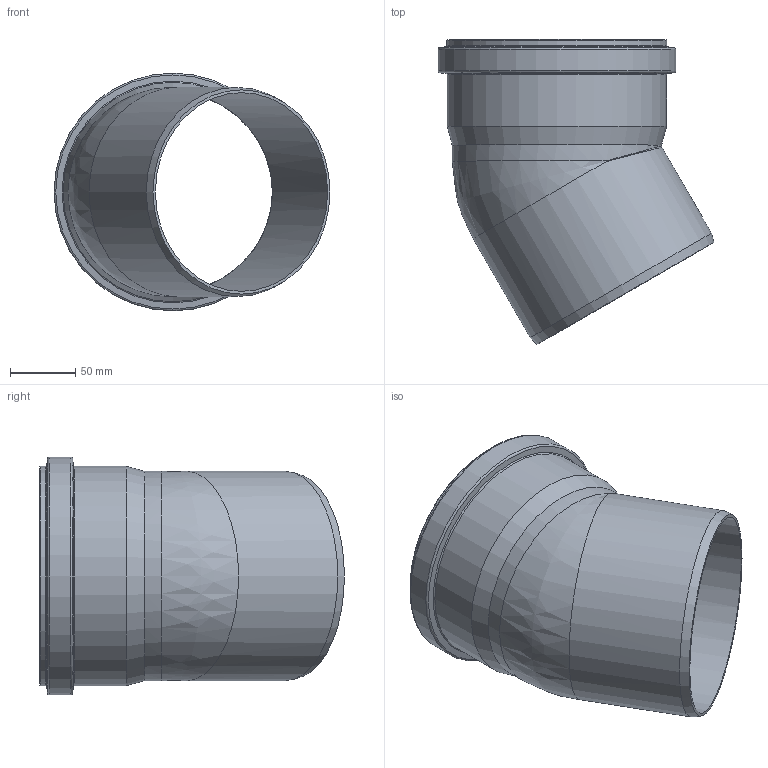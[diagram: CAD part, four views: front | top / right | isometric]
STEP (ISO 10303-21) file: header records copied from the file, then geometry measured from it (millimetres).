
FILE_DESCRIPTION(/* description */ (''),/* implementation_level */ '2;1');
FILE_NAME(/* name */ '222210z.stp',/* time_stamp */ '2026-03-16T09:12:33+01:00',/* author */ ('corinna'),/* organization */ (''),/* preprocessor_version */ 'ST-DEVELOPER v20',/* originating_system */ 'Autodesk Inventor 2024',/* authorisation */ '');
FILE_SCHEMA (('AUTOMOTIVE_DESIGN { 1 0 10303 214 3 1 1 }'));
Length unit declared in the file: millimetre
Products named in the file (1): 222210z
Bounding box: 211.24 x 233.34 x 182 mm (x, y, z)
Volume: 422712.4 mm3; surface area: 224247.4 mm2
Topology: 1 solids, 1 shells, 34 faces, 89 edges, 56 vertices
Faces by surface type: cylinder 11, torus 10, cone 7, bspline 3, plane 3
Full cylindrical faces by diameter (mm): 152.2 x2, 160.2 x2, 160.7 x1, 161.1 x2, 167.9 x1, 168.3 x1, 174.8 x1, 182 x1
Entity records: 1211 total; most frequent: CARTESIAN_POINT 287, DIRECTION 216, ORIENTED_EDGE 174, AXIS2_PLACEMENT_3D 99, EDGE_CURVE 87, CIRCLE 61, VERTEX_POINT 56, EDGE_LOOP 37
